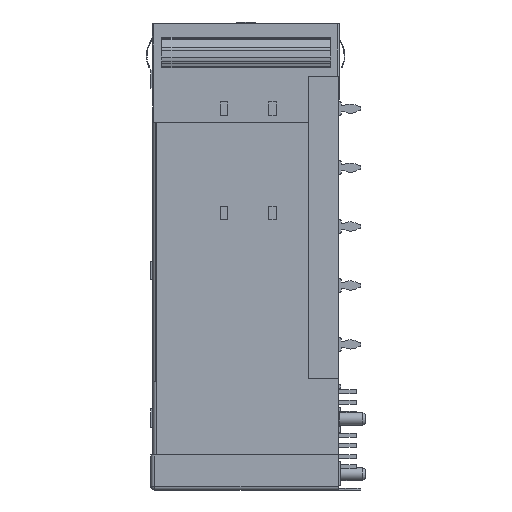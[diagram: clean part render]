
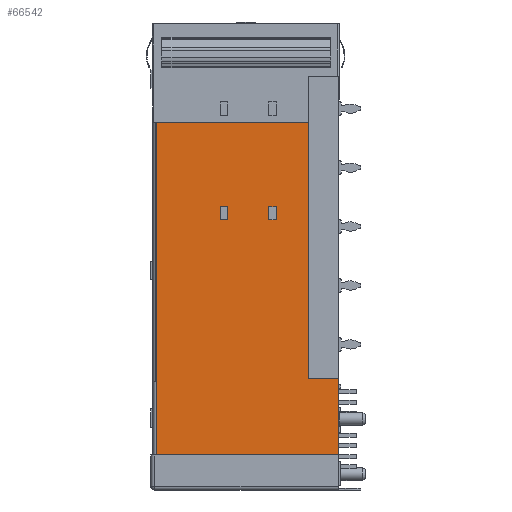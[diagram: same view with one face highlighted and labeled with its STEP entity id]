
A CAD part, left-side view. The second image highlights one B-rep face of the part: STEP entity #66542.
In plain terms, the highlighted planar face has unit normal (-1, 0, 0).
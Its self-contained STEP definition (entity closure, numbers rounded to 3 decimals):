
#170 = CARTESIAN_POINT ( 'NONE',  ( -28.625, 24.7, -63.25 ) ) ;
#275 = AXIS2_PLACEMENT_3D ( 'NONE', #34776, #45462, #49943 ) ;
#463 = VERTEX_POINT ( 'NONE', #33133 ) ;
#1280 = ORIENTED_EDGE ( 'NONE', *, *, #19096, .T. ) ;
#2805 = CARTESIAN_POINT ( 'NONE',  ( -28.625, 9.45, -24.8 ) ) ;
#3174 = VECTOR ( 'NONE', #26219, 1000. ) ;
#3207 = ORIENTED_EDGE ( 'NONE', *, *, #8981, .T. ) ;
#4071 = VERTEX_POINT ( 'NONE', #12764 ) ;
#4206 = VERTEX_POINT ( 'NONE', #34025 ) ;
#4739 = CARTESIAN_POINT ( 'NONE',  ( -28.625, 15., -24.8 ) ) ;
#5534 = VERTEX_POINT ( 'NONE', #20627 ) ;
#6097 = CARTESIAN_POINT ( 'NONE',  ( -28.625, 0., -63.25 ) ) ;
#6983 = VERTEX_POINT ( 'NONE', #15381 ) ;
#7748 = CARTESIAN_POINT ( 'NONE',  ( -28.625, 16., -24.8 ) ) ;
#8981 = EDGE_CURVE ( 'NONE', #6983, #463, #32051, .T. ) ;
#9748 = EDGE_CURVE ( 'NONE', #5534, #4206, #57403, .T. ) ;
#10498 = CARTESIAN_POINT ( 'NONE',  ( -28.625, 9.45, -24.8 ) ) ;
#10731 = ORIENTED_EDGE ( 'NONE', *, *, #46839, .T. ) ;
#11428 = EDGE_LOOP ( 'NONE', ( #34581, #18854, #15677, #3207 ) ) ;
#11991 = EDGE_LOOP ( 'NONE', ( #25846, #1280, #25737, #21068 ) ) ;
#12375 = VERTEX_POINT ( 'NONE', #63370 ) ;
#12717 = CARTESIAN_POINT ( 'NONE',  ( -28.625, 8.45, -26.6 ) ) ;
#12764 = CARTESIAN_POINT ( 'NONE',  ( -28.625, 4.1, -13.4 ) ) ;
#13687 = FACE_BOUND ( 'NONE', #11428, .T. ) ;
#15381 = CARTESIAN_POINT ( 'NONE',  ( -28.625, 16., -26.6 ) ) ;
#15603 = VECTOR ( 'NONE', #18718, 1000. ) ;
#15677 = ORIENTED_EDGE ( 'NONE', *, *, #43434, .T. ) ;
#16288 = EDGE_CURVE ( 'NONE', #5534, #4071, #65838, .T. ) ;
#16386 = CARTESIAN_POINT ( 'NONE',  ( -28.625, 16., -24.8 ) ) ;
#17433 = LINE ( 'NONE', #6097, #38577 ) ;
#17564 = VERTEX_POINT ( 'NONE', #65938 ) ;
#17855 = DIRECTION ( 'NONE',  ( 0., 0., -1. ) ) ;
#18054 = VECTOR ( 'NONE', #57801, 1000. ) ;
#18718 = DIRECTION ( 'NONE',  ( 0., 1., 0. ) ) ;
#18854 = ORIENTED_EDGE ( 'NONE', *, *, #39174, .T. ) ;
#19096 = EDGE_CURVE ( 'NONE', #36871, #64330, #67758, .T. ) ;
#19954 = CARTESIAN_POINT ( 'NONE',  ( -28.625, 0., -48.1 ) ) ;
#20627 = CARTESIAN_POINT ( 'NONE',  ( -28.625, 24.7, -13.4 ) ) ;
#21068 = ORIENTED_EDGE ( 'NONE', *, *, #48803, .T. ) ;
#21372 = CARTESIAN_POINT ( 'NONE',  ( -28.625, 8.45, -24.8 ) ) ;
#22969 = CARTESIAN_POINT ( 'NONE',  ( -28.625, 9.45, -26.6 ) ) ;
#23532 = VECTOR ( 'NONE', #32085, 1000. ) ;
#23627 = VERTEX_POINT ( 'NONE', #4739 ) ;
#23676 = VECTOR ( 'NONE', #54481, 1000. ) ;
#24123 = VECTOR ( 'NONE', #17855, 1000. ) ;
#24816 = CARTESIAN_POINT ( 'NONE',  ( -28.625, 15., -26.6 ) ) ;
#24918 = LINE ( 'NONE', #66654, #46967 ) ;
#24957 = EDGE_CURVE ( 'NONE', #58777, #36871, #58109, .T. ) ;
#25455 = EDGE_CURVE ( 'NONE', #64330, #12375, #57981, .T. ) ;
#25737 = ORIENTED_EDGE ( 'NONE', *, *, #25455, .T. ) ;
#25846 = ORIENTED_EDGE ( 'NONE', *, *, #24957, .T. ) ;
#26122 = EDGE_LOOP ( 'NONE', ( #53987, #41692, #65684, #10731, #67100, #57394 ) ) ;
#26219 = DIRECTION ( 'NONE',  ( 0., 0., 1. ) ) ;
#26518 = EDGE_CURVE ( 'NONE', #463, #23627, #62942, .T. ) ;
#29003 = DIRECTION ( 'NONE',  ( 0., -1., 0. ) ) ;
#29315 = PLANE ( 'NONE',  #275 ) ;
#29344 = CARTESIAN_POINT ( 'NONE',  ( -28.625, 16., -26.6 ) ) ;
#29456 = VERTEX_POINT ( 'NONE', #37655 ) ;
#30483 = CARTESIAN_POINT ( 'NONE',  ( -28.625, 8.45, -24.8 ) ) ;
#31066 = VECTOR ( 'NONE', #67285, 1000. ) ;
#31254 = VECTOR ( 'NONE', #56018, 1000. ) ;
#31454 = CARTESIAN_POINT ( 'NONE',  ( -28.625, 0., -58.5 ) ) ;
#32051 = LINE ( 'NONE', #7748, #31254 ) ;
#32085 = DIRECTION ( 'NONE',  ( 0., 0., -1. ) ) ;
#33133 = CARTESIAN_POINT ( 'NONE',  ( -28.625, 16., -24.8 ) ) ;
#33358 = LINE ( 'NONE', #29344, #15603 ) ;
#34025 = CARTESIAN_POINT ( 'NONE',  ( -28.625, 24.7, -58.5 ) ) ;
#34581 = ORIENTED_EDGE ( 'NONE', *, *, #26518, .T. ) ;
#34776 = CARTESIAN_POINT ( 'NONE',  ( -28.625, 0., -63.25 ) ) ;
#36871 = VERTEX_POINT ( 'NONE', #30483 ) ;
#37655 = CARTESIAN_POINT ( 'NONE',  ( -28.625, 4.1, -48.1 ) ) ;
#38285 = FACE_BOUND ( 'NONE', #11991, .T. ) ;
#38577 = VECTOR ( 'NONE', #55102, 1000. ) ;
#39174 = EDGE_CURVE ( 'NONE', #23627, #51073, #43616, .T. ) ;
#41692 = ORIENTED_EDGE ( 'NONE', *, *, #9748, .T. ) ;
#42041 = VECTOR ( 'NONE', #53800, 1000. ) ;
#43434 = EDGE_CURVE ( 'NONE', #51073, #6983, #33358, .T. ) ;
#43616 = LINE ( 'NONE', #50037, #24123 ) ;
#44677 = EDGE_CURVE ( 'NONE', #17564, #29456, #59513, .T. ) ;
#44753 = DIRECTION ( 'NONE',  ( 0., 1., 0. ) ) ;
#45462 = DIRECTION ( 'NONE',  ( -1., 0., 0. ) ) ;
#46839 = EDGE_CURVE ( 'NONE', #55057, #17564, #17433, .T. ) ;
#46967 = VECTOR ( 'NONE', #29003, 1000. ) ;
#48803 = EDGE_CURVE ( 'NONE', #12375, #58777, #66879, .T. ) ;
#49541 = CARTESIAN_POINT ( 'NONE',  ( -28.625, 9.45, -24.8 ) ) ;
#49943 = DIRECTION ( 'NONE',  ( 0., 0., 1. ) ) ;
#50037 = CARTESIAN_POINT ( 'NONE',  ( -28.625, 15., -24.8 ) ) ;
#51073 = VERTEX_POINT ( 'NONE', #24816 ) ;
#52265 = DIRECTION ( 'NONE',  ( 0., 0., 1. ) ) ;
#52509 = VECTOR ( 'NONE', #52265, 1000. ) ;
#53671 = CARTESIAN_POINT ( 'NONE',  ( -28.625, 4.1, -7.1 ) ) ;
#53800 = DIRECTION ( 'NONE',  ( 0., -1., 0. ) ) ;
#53943 = LINE ( 'NONE', #53671, #3174 ) ;
#53987 = ORIENTED_EDGE ( 'NONE', *, *, #16288, .F. ) ;
#54467 = DIRECTION ( 'NONE',  ( 0., -1., 0. ) ) ;
#54481 = DIRECTION ( 'NONE',  ( 0., 0., -1. ) ) ;
#55057 = VERTEX_POINT ( 'NONE', #31454 ) ;
#55102 = DIRECTION ( 'NONE',  ( 0., 0., 1. ) ) ;
#56018 = DIRECTION ( 'NONE',  ( 0., 0., 1. ) ) ;
#56624 = CARTESIAN_POINT ( 'NONE',  ( -28.625, 25.2, -13.4 ) ) ;
#57394 = ORIENTED_EDGE ( 'NONE', *, *, #59553, .T. ) ;
#57403 = LINE ( 'NONE', #170, #23532 ) ;
#57801 = DIRECTION ( 'NONE',  ( 0., 1., 0. ) ) ;
#57981 = LINE ( 'NONE', #22969, #63076 ) ;
#58109 = LINE ( 'NONE', #10498, #42041 ) ;
#58777 = VERTEX_POINT ( 'NONE', #49541 ) ;
#59513 = LINE ( 'NONE', #19954, #18054 ) ;
#59553 = EDGE_CURVE ( 'NONE', #29456, #4071, #53943, .T. ) ;
#62942 = LINE ( 'NONE', #16386, #67138 ) ;
#63076 = VECTOR ( 'NONE', #44753, 1000. ) ;
#63370 = CARTESIAN_POINT ( 'NONE',  ( -28.625, 9.45, -26.6 ) ) ;
#64330 = VERTEX_POINT ( 'NONE', #12717 ) ;
#64376 = EDGE_CURVE ( 'NONE', #4206, #55057, #24918, .T. ) ;
#65684 = ORIENTED_EDGE ( 'NONE', *, *, #64376, .T. ) ;
#65838 = LINE ( 'NONE', #56624, #31066 ) ;
#65938 = CARTESIAN_POINT ( 'NONE',  ( -28.625, 0., -48.1 ) ) ;
#66542 = ADVANCED_FACE ( 'NONE', ( #38285, #13687, #67879 ), #29315, .T. ) ;
#66654 = CARTESIAN_POINT ( 'NONE',  ( -28.625, 25.2, -58.5 ) ) ;
#66879 = LINE ( 'NONE', #2805, #52509 ) ;
#67100 = ORIENTED_EDGE ( 'NONE', *, *, #44677, .T. ) ;
#67138 = VECTOR ( 'NONE', #54467, 1000. ) ;
#67285 = DIRECTION ( 'NONE',  ( 0., -1., 0. ) ) ;
#67758 = LINE ( 'NONE', #21372, #23676 ) ;
#67879 = FACE_OUTER_BOUND ( 'NONE', #26122, .T. ) ;
